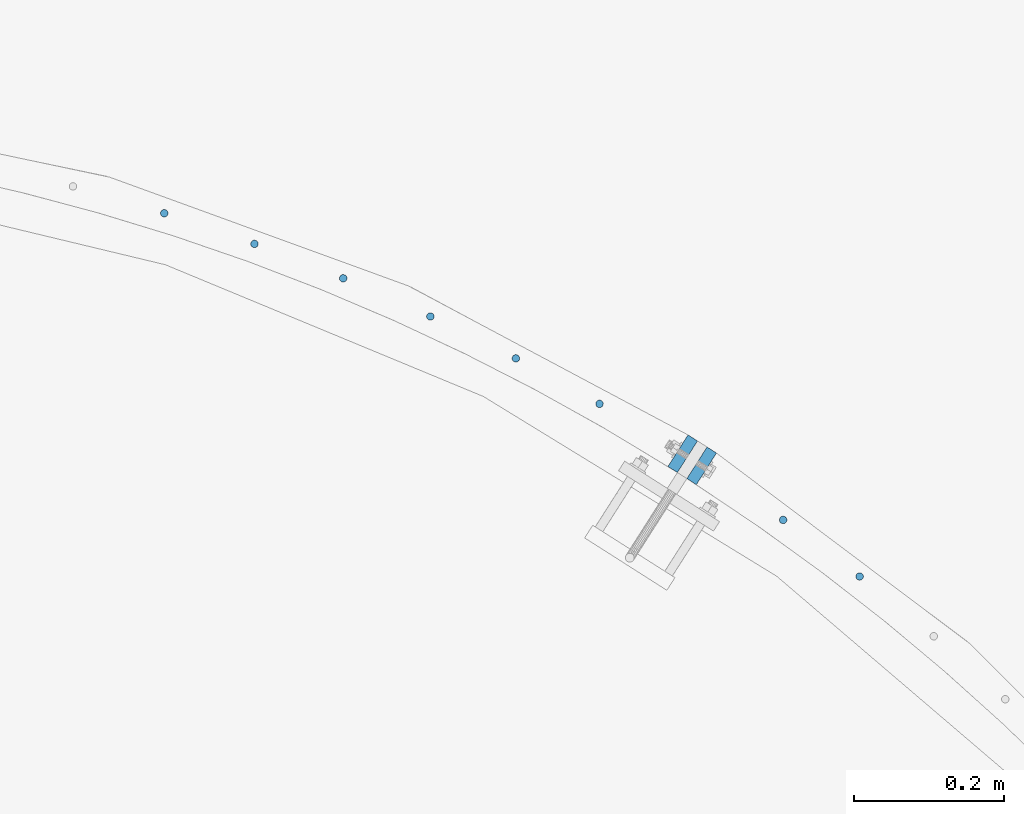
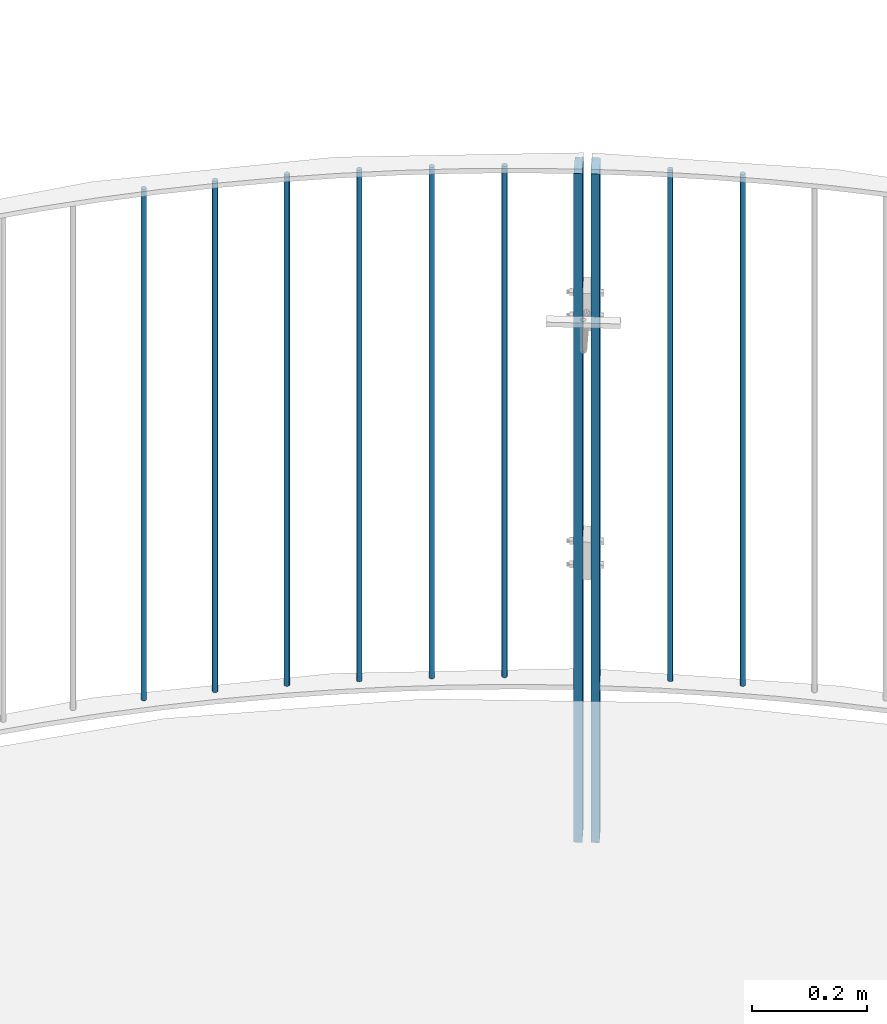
# One storey, part 96 of 296: 10 columns, 12 openings.
"""IFC2X3 building model written with IfcOpenShell, lengths in millimetres."""

from ifc_helpers import new_model, entity, si_unit, converted_unit, frame, frame_2d, origin, origin_with_axes, origin_2d, place, context, project, spatial, rectangle, circle, extrude, material, element, save


model = new_model("IFC2X3")

# Units and contexts
model_context = context("Model", 3, precision=1e-09, world=origin_with_axes())
ifc_project = project(units=[si_unit("LENGTHUNIT", "METRE", prefix="MILLI"), si_unit("AREAUNIT", "SQUARE_METRE"), si_unit("VOLUMEUNIT", "CUBIC_METRE"), converted_unit("PLANEANGLEUNIT", "DEGREE", entity("IfcPlaneAngleMeasure", 0.01745329), si_unit("PLANEANGLEUNIT", "RADIAN"), dimensions=[0, 0, 0, 0, 0, 0, 0])], contexts=[model_context])

# Site, building, storey
site_placement = place(None, origin_with_axes())
site = spatial("IfcSite", under=ifc_project, at=site_placement, Name="TZD-S?d | Treppenhausgel?nder", CompositionType="ELEMENT")
building_placement = place(site_placement, origin_with_axes())
building = spatial("IfcBuilding", under=site, at=building_placement, Name="Struktur 1", CompositionType="ELEMENT")
storey_placement = place(building_placement, origin_with_axes())
storey = spatial("IfcBuildingStorey", under=building, at=storey_placement, Name="Default Storey", CompositionType="ELEMENT", Elevation=0.0)

# Columns
ifc_material = material(Name="S235JR")
for number, where, z_axis, x_axis in (
    (1, (4754.886554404, 2266.022423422, 2450.0), (0.0, 0.0, -1.0), (-0.422618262, 0.906307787, 0.0)),
    (2, (4652.810548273, 2341.511969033, 2450.0), (0.0, 0.0, -1.0), (-0.422618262, 0.906307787, 0.0)),
    (3, (4407.879997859, 2496.374672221, 2450.0), (0.0, 0.0, -1.0), (-0.766044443, 0.64278761, 0.0)),
    (4, (4296.324050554, 2556.983690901, 2450.0), (0.0, 0.0, -1.0), (-0.766044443, 0.64278761, 0.0)),
    (5, (4182.29574631, 2612.802400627, 2450.0), (0.0, 0.0, -1.0), (-0.766044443, 0.64278761, 0.0)),
    (6, (4066.000667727, 2663.730165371, 2450.0), (0.0, 0.0, -1.0), (-0.766044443, 0.64278761, 0.0)),
    (7, (3947.648484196, 2709.675167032, 2450.0), (0.0, 0.0, -1.0), (-0.766044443, 0.64278761, 0.0)),
    (8, (3827.452573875, 2750.554570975, 2450.0), (0.0, 0.0, -1.0), (-0.766044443, 0.64278761, 0.0)),
):
    element("IfcColumn", number, at=place(None, frame(where, z_axis=z_axis, x_axis=x_axis)), inside=storey, material=ifc_material, Name="-", ObjectType="-", context=model_context, shape_type="SweptSolid", body=[
        extrude(circle(Radius=5.0, at=origin_2d()), origin(), (0.0, 0.0, -1.0), 1090.0),
    ])

# Column, openings
column_1_placement = place(None, frame((4544.176700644, 2413.680928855, 2115.001), z_axis=(0.0, 0.0, -1.0), x_axis=(-0.843391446, 0.537299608, 0.0)))
column_1 = element("IfcColumn", 9, at=column_1_placement, inside=storey, material=ifc_material, Name="-", ObjectType="-", context=model_context, shape_type="SweptSolid", body=[
    extrude(rectangle(XDim=15.0, YDim=50.0, at=origin_2d()), origin(), (0.0, 0.0, -1.0), 1424.999),
])
opening_1_placement = place(column_1_placement, frame((8.0, 5.001, -624.999999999), z_axis=(1.0, 0.0, 0.0), x_axis=(0.0, 1.0, 0.0)))
element("IfcOpeningElement", 10, at=opening_1_placement, cuts=column_1, ObjectType="Opening", context=model_context, shape_type="SweptSolid", body=[
    extrude(circle(Radius=5.001, at=frame_2d((-5.001, 0.0), x_axis=(1.0, 0.0))), origin(), (0.0, 0.0, -1.0), 16.0),
])
opening_2_placement = place(column_1_placement, frame((8.0, 5.001, -574.999999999), z_axis=(1.0, 0.0, 0.0), x_axis=(0.0, 1.0, 0.0)))
element("IfcOpeningElement", 11, at=opening_2_placement, cuts=column_1, ObjectType="Opening", context=model_context, shape_type="SweptSolid", body=[
    extrude(circle(Radius=5.001, at=frame_2d((-5.001, 0.0), x_axis=(1.0, 0.0))), origin(), (0.0, 0.0, -1.0), 16.0),
])
opening_3_placement = place(column_1_placement, frame((8.0, 5.001, -1154.999999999), z_axis=(1.0, 0.0, 0.0), x_axis=(0.0, 1.0, 0.0)))
element("IfcOpeningElement", 12, at=opening_3_placement, cuts=column_1, ObjectType="Opening", context=model_context, shape_type="SweptSolid", body=[
    extrude(circle(Radius=5.001, at=frame_2d((-5.001, 0.0), x_axis=(1.0, 0.0))), origin(), (0.0, 0.0, -1.0), 16.0),
])
opening_4_placement = place(column_1_placement, frame((8.0, 5.001, -1104.999999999), z_axis=(1.0, 0.0, 0.0), x_axis=(0.0, 1.0, 0.0)))
element("IfcOpeningElement", 13, at=opening_4_placement, cuts=column_1, ObjectType="Opening", context=model_context, shape_type="SweptSolid", body=[
    extrude(circle(Radius=5.001, at=frame_2d((-5.001, 0.0), x_axis=(1.0, 0.0))), origin(), (0.0, 0.0, -1.0), 16.0),
])
opening_5_placement = place(column_1_placement, frame((8.0, 7.001, -135.0), z_axis=(1.0, 0.0, 0.0), x_axis=(0.0, 1.0, 0.0)))
element("IfcOpeningElement", 14, at=opening_5_placement, cuts=column_1, ObjectType="Opening", context=model_context, shape_type="SweptSolid", body=[
    extrude(circle(Radius=7.001, at=frame_2d((-7.001, 0.0), x_axis=(1.0, 0.0))), origin(), (0.0, 0.0, -1.0), 16.0),
])
opening_6_placement = place(column_1_placement, frame((8.0, 7.001, -35.0), z_axis=(1.0, 0.0, 0.0), x_axis=(0.0, 1.0, 0.0)))
element("IfcOpeningElement", 15, at=opening_6_placement, cuts=column_1, ObjectType="Opening", context=model_context, shape_type="SweptSolid", body=[
    extrude(circle(Radius=7.001, at=frame_2d((-7.001, 0.0), x_axis=(1.0, 0.0))), origin(), (0.0, 0.0, -1.0), 16.0),
])

column_2_placement = place(None, frame((4518.87495727, 2429.799917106, 2115.001), z_axis=(0.0, 0.0, 1.0), x_axis=(0.843391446, -0.537299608, 0.0)))
column_2 = element("IfcColumn", 16, at=column_2_placement, inside=storey, material=ifc_material, Name="-", ObjectType="-", context=model_context, shape_type="SweptSolid", body=[
    extrude(rectangle(XDim=15.0, YDim=50.0, at=origin_2d()), origin(), (0.0, 0.0, 1.0), 1424.999),
])
opening_7_placement = place(column_2_placement, frame((-8.0, 5.001, 624.999999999), z_axis=(-1.0, 0.0, 0.0), x_axis=(0.0, -1.0, 0.0)))
element("IfcOpeningElement", 17, at=opening_7_placement, cuts=column_2, ObjectType="Opening", context=model_context, shape_type="SweptSolid", body=[
    extrude(circle(Radius=5.001, at=frame_2d((5.001, 0.0), x_axis=(1.0, 0.0))), origin(), (0.0, 0.0, -1.0), 16.0),
])
opening_8_placement = place(column_2_placement, frame((-8.0, 5.001, 574.999999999), z_axis=(-1.0, 0.0, 0.0), x_axis=(0.0, -1.0, 0.0)))
element("IfcOpeningElement", 18, at=opening_8_placement, cuts=column_2, ObjectType="Opening", context=model_context, shape_type="SweptSolid", body=[
    extrude(circle(Radius=5.001, at=frame_2d((5.001, 0.0), x_axis=(1.0, 0.0))), origin(), (0.0, 0.0, -1.0), 16.0),
])
opening_9_placement = place(column_2_placement, frame((-8.0, 5.001, 1154.999999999), z_axis=(-1.0, 0.0, 0.0), x_axis=(0.0, -1.0, 0.0)))
element("IfcOpeningElement", 19, at=opening_9_placement, cuts=column_2, ObjectType="Opening", context=model_context, shape_type="SweptSolid", body=[
    extrude(circle(Radius=5.001, at=frame_2d((5.001, 0.0), x_axis=(1.0, 0.0))), origin(), (0.0, 0.0, -1.0), 16.0),
])
opening_10_placement = place(column_2_placement, frame((-8.0, 5.001, 1104.999999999), z_axis=(-1.0, 0.0, 0.0), x_axis=(0.0, -1.0, 0.0)))
element("IfcOpeningElement", 20, at=opening_10_placement, cuts=column_2, ObjectType="Opening", context=model_context, shape_type="SweptSolid", body=[
    extrude(circle(Radius=5.001, at=frame_2d((5.001, 0.0), x_axis=(1.0, 0.0))), origin(), (0.0, 0.0, -1.0), 16.0),
])
opening_11_placement = place(column_2_placement, frame((-8.0, 7.001, 135.0), z_axis=(-1.0, 0.0, 0.0), x_axis=(0.0, -1.0, 0.0)))
element("IfcOpeningElement", 21, at=opening_11_placement, cuts=column_2, ObjectType="Opening", context=model_context, shape_type="SweptSolid", body=[
    extrude(circle(Radius=7.001, at=frame_2d((7.001, 0.0), x_axis=(1.0, 0.0))), origin(), (0.0, 0.0, -1.0), 16.0),
])
opening_12_placement = place(column_2_placement, frame((-8.0, 7.001, 35.0), z_axis=(-1.0, 0.0, 0.0), x_axis=(0.0, -1.0, 0.0)))
element("IfcOpeningElement", 22, at=opening_12_placement, cuts=column_2, ObjectType="Opening", context=model_context, shape_type="SweptSolid", body=[
    extrude(circle(Radius=7.001, at=frame_2d((7.001, 0.0), x_axis=(1.0, 0.0))), origin(), (0.0, 0.0, -1.0), 16.0),
])

save(model, "model.ifc")
